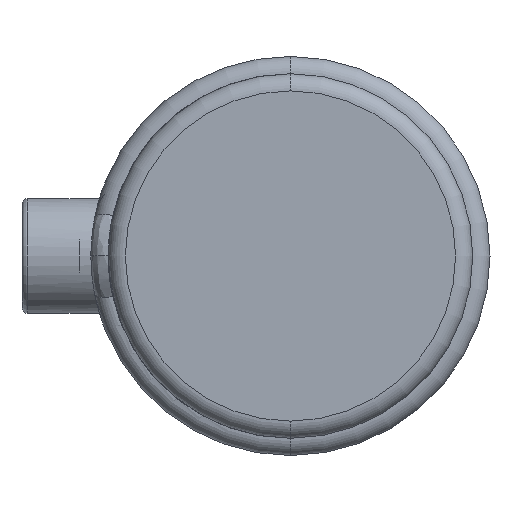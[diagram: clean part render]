
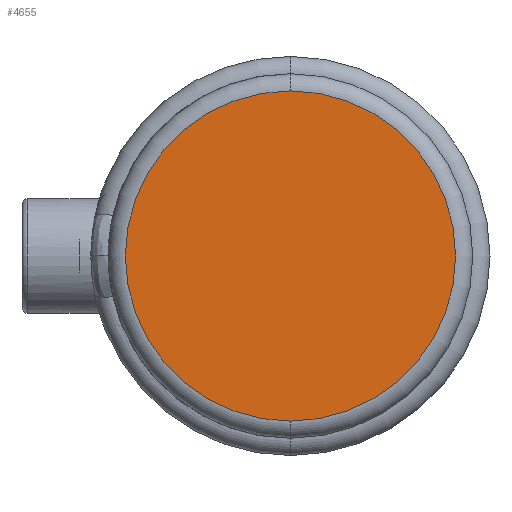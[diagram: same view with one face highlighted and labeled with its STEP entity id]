
A CAD part, left-side view. The second image highlights one B-rep face of the part: STEP entity #4655.
In plain terms, the highlighted planar face has unit normal (-1, 0, 0).
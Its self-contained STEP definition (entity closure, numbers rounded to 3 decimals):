
#474 = AXIS2_PLACEMENT_3D ( 'NONE', #716, #3362, #1114 ) ;
#497 = CARTESIAN_POINT ( 'NONE',  ( 0., 0., 28.75 ) ) ;
#716 = CARTESIAN_POINT ( 'NONE',  ( 0., 0., 0. ) ) ;
#1114 = DIRECTION ( 'NONE',  ( 0., 0., 1. ) ) ;
#1158 = ORIENTED_EDGE ( 'NONE', *, *, #1588, .T. ) ;
#1161 = EDGE_CURVE ( 'NONE', #4485, #3450, #1257, .T. ) ;
#1257 = CIRCLE ( 'NONE', #4187, 28.75 ) ;
#1271 = DIRECTION ( 'NONE',  ( -1., 0., 0. ) ) ;
#1337 = DIRECTION ( 'NONE',  ( -1., 0., 0. ) ) ;
#1446 = CIRCLE ( 'NONE', #474, 28.75 ) ;
#1573 = EDGE_LOOP ( 'NONE', ( #1158, #3775 ) ) ;
#1588 = EDGE_CURVE ( 'NONE', #3450, #4485, #1446, .T. ) ;
#2095 = PLANE ( 'NONE',  #3462 ) ;
#3016 = FACE_OUTER_BOUND ( 'NONE', #1573, .T. ) ;
#3362 = DIRECTION ( 'NONE',  ( -1., 0., 0. ) ) ;
#3450 = VERTEX_POINT ( 'NONE', #497 ) ;
#3462 = AXIS2_PLACEMENT_3D ( 'NONE', #3939, #1337, #4672 ) ;
#3511 = CARTESIAN_POINT ( 'NONE',  ( 0., 0., 0. ) ) ;
#3775 = ORIENTED_EDGE ( 'NONE', *, *, #1161, .T. ) ;
#3870 = DIRECTION ( 'NONE',  ( 0., 0., 1. ) ) ;
#3902 = CARTESIAN_POINT ( 'NONE',  ( 0., 0., -28.75 ) ) ;
#3939 = CARTESIAN_POINT ( 'NONE',  ( 0., 0., 0. ) ) ;
#4187 = AXIS2_PLACEMENT_3D ( 'NONE', #3511, #1271, #3870 ) ;
#4485 = VERTEX_POINT ( 'NONE', #3902 ) ;
#4655 = ADVANCED_FACE ( 'NONE', ( #3016 ), #2095, .T. ) ;
#4672 = DIRECTION ( 'NONE',  ( 0., 0., 1. ) ) ;
